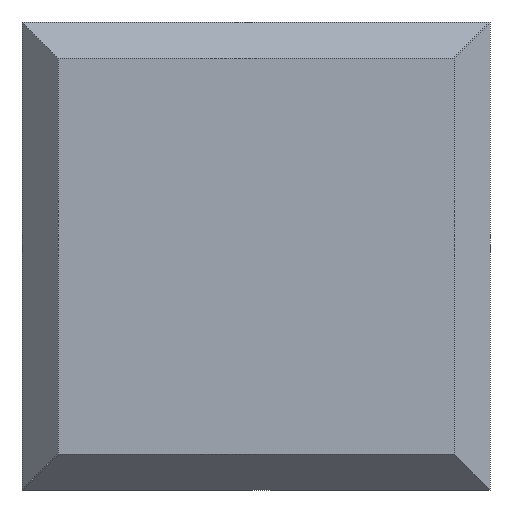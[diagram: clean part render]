
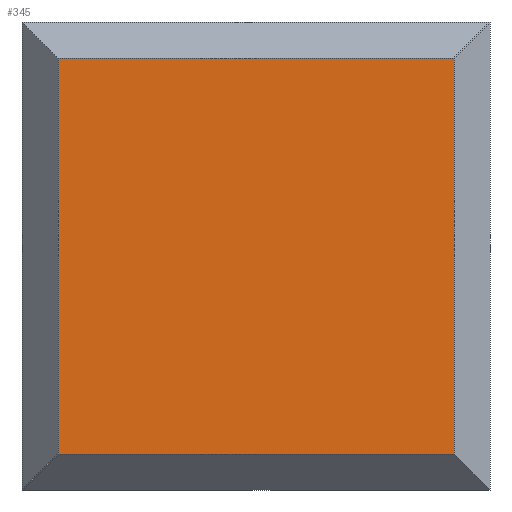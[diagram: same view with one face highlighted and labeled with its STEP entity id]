
A CAD part, front view. The second image highlights one B-rep face of the part: STEP entity #345.
In plain terms, the highlighted planar face has unit normal (0, -1, 0).
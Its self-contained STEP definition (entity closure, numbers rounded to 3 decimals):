
#29 = VERTEX_POINT ( 'NONE', #109 ) ;
#47 = CARTESIAN_POINT ( 'NONE',  ( 5.5, -6., -5.5 ) ) ;
#96 = EDGE_CURVE ( 'NONE', #29, #373, #443, .T. ) ;
#109 = CARTESIAN_POINT ( 'NONE',  ( -5.5, -6., 5.5 ) ) ;
#124 = ORIENTED_EDGE ( 'NONE', *, *, #858, .T. ) ;
#133 = VECTOR ( 'NONE', #258, 1000. ) ;
#136 = VERTEX_POINT ( 'NONE', #735 ) ;
#170 = CARTESIAN_POINT ( 'NONE',  ( 6.5, -6., 5.5 ) ) ;
#188 = ORIENTED_EDGE ( 'NONE', *, *, #286, .F. ) ;
#194 = VECTOR ( 'NONE', #765, 1000. ) ;
#249 = FACE_OUTER_BOUND ( 'NONE', #618, .T. ) ;
#258 = DIRECTION ( 'NONE',  ( 0., 0., -1. ) ) ;
#261 = CARTESIAN_POINT ( 'NONE',  ( 5.5, -6., 6.5 ) ) ;
#269 = LINE ( 'NONE', #688, #647 ) ;
#286 = EDGE_CURVE ( 'NONE', #560, #136, #269, .T. ) ;
#345 = ADVANCED_FACE ( 'NONE', ( #249 ), #857, .T. ) ;
#373 = VERTEX_POINT ( 'NONE', #621 ) ;
#420 = CARTESIAN_POINT ( 'NONE',  ( -5.5, -6., 5.5 ) ) ;
#443 = LINE ( 'NONE', #170, #194 ) ;
#460 = CARTESIAN_POINT ( 'NONE',  ( 5.5, -6., 5.5 ) ) ;
#490 = EDGE_CURVE ( 'NONE', #373, #560, #512, .T. ) ;
#512 = LINE ( 'NONE', #261, #133 ) ;
#560 = VERTEX_POINT ( 'NONE', #47 ) ;
#616 = DIRECTION ( 'NONE',  ( 0., -1., 0. ) ) ;
#618 = EDGE_LOOP ( 'NONE', ( #939, #124, #188, #855 ) ) ;
#621 = CARTESIAN_POINT ( 'NONE',  ( 5.5, -6., 5.5 ) ) ;
#647 = VECTOR ( 'NONE', #776, 1000. ) ;
#660 = DIRECTION ( 'NONE',  ( -1., 0., 0. ) ) ;
#666 = VECTOR ( 'NONE', #712, 1000. ) ;
#688 = CARTESIAN_POINT ( 'NONE',  ( 6.5, -6., -5.5 ) ) ;
#689 = LINE ( 'NONE', #420, #666 ) ;
#712 = DIRECTION ( 'NONE',  ( 0., 0., -1. ) ) ;
#735 = CARTESIAN_POINT ( 'NONE',  ( -5.5, -6., -5.5 ) ) ;
#765 = DIRECTION ( 'NONE',  ( 1., 0., 0. ) ) ;
#776 = DIRECTION ( 'NONE',  ( -1., 0., 0. ) ) ;
#800 = AXIS2_PLACEMENT_3D ( 'NONE', #460, #616, #660 ) ;
#855 = ORIENTED_EDGE ( 'NONE', *, *, #490, .F. ) ;
#857 = PLANE ( 'NONE',  #800 ) ;
#858 = EDGE_CURVE ( 'NONE', #29, #136, #689, .T. ) ;
#939 = ORIENTED_EDGE ( 'NONE', *, *, #96, .F. ) ;
